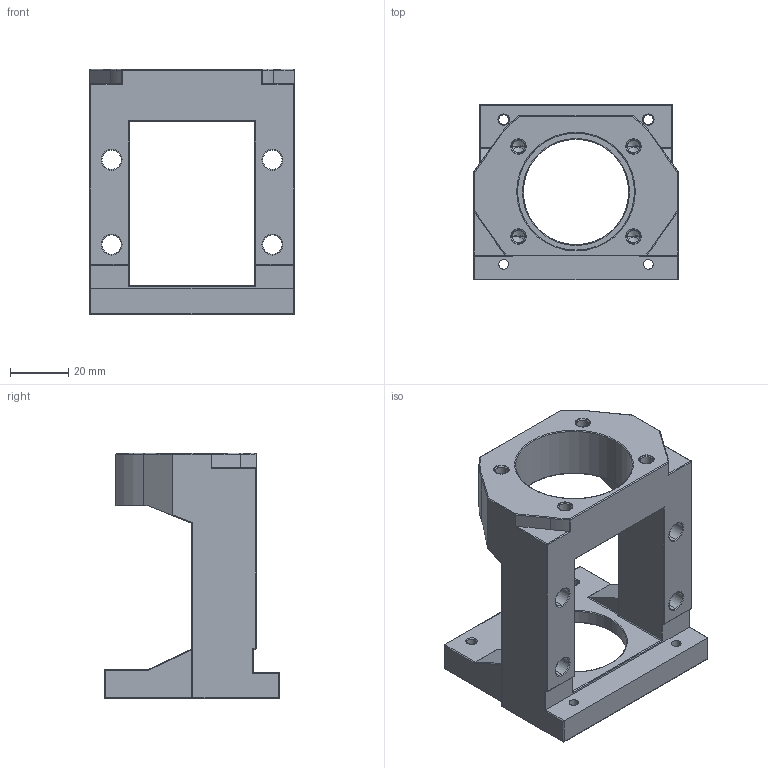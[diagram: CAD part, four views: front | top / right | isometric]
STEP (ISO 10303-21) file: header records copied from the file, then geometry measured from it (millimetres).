
FILE_DESCRIPTION (( 'STEP AP203' ), '1' );
FILE_NAME ('自化件傳動座外MBL15-DP本體.STEP', '2018-12-27T08:36:06', ( '' ), ( '' ), 'SwSTEP 2.0', 'SolidWorks 2018', '' );
FILE_SCHEMA (( 'CONFIG_CONTROL_DESIGN' ));
Length unit declared in the file: millimetre
Products named in the file (1): 自化件傳動座外MBL15-DP本體
Bounding box: 70 x 60 x 84 mm (x, y, z)
Volume: 88069.3 mm3; surface area: 29224.5 mm2
Topology: 1 solids, 1 shells, 234 faces, 559 edges, 310 vertices
Faces by surface type: cylinder 107, torus 46, plane 37, cone 24, sphere 18, bspline 2
Entity records: 6712 total; most frequent: CARTESIAN_POINT 1288, DIRECTION 1217, ORIENTED_EDGE 1070, EDGE_CURVE 535, AXIS2_PLACEMENT_3D 495, VERTEX_POINT 310, EDGE_LOOP 263, CIRCLE 262
